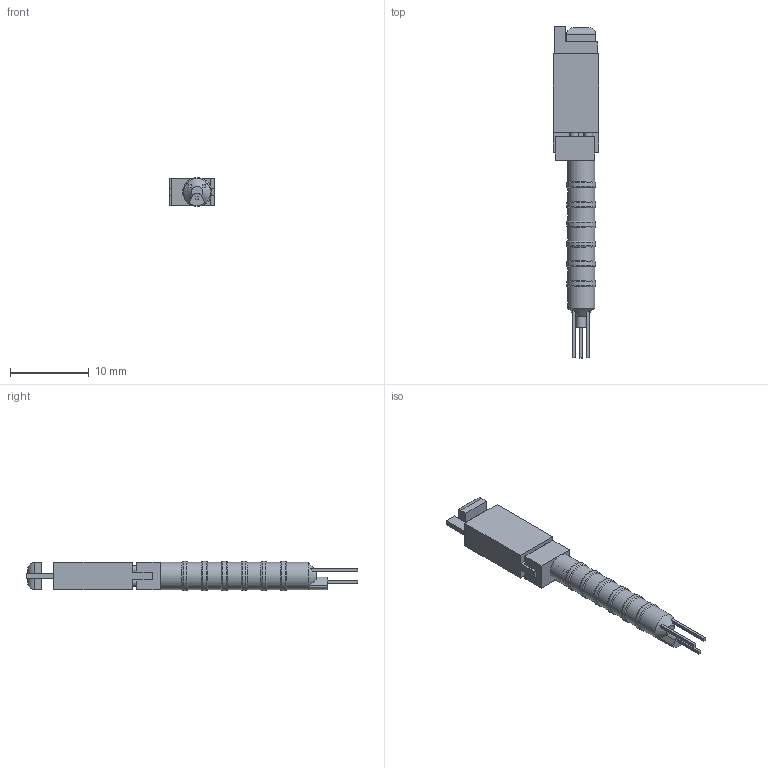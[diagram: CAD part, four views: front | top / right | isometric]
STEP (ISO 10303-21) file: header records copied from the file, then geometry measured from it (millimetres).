
FILE_DESCRIPTION(/* description */ (''),/* implementation_level */ '2;1');
FILE_NAME(/* name */ 'C:/Users/sorto/Downloads/MF_With_Sleeve.step',/* time_stamp */ '2020-10-08T15:54:54-05:00',/* author */ (''),/* organization */ (''),/* preprocessor_version */ 'ST-DEVELOPER v18.1',/* originating_system */ 'Autodesk Translation Framework v9.3.0.1241',/* authorisation */ '');
FILE_SCHEMA (('AUTOMOTIVE_DESIGN { 1 0 10303 214 3 1 1 }'));
Length unit declared in the file: inch
Products named in the file (5): Test ASY; MEGAFINN_Sleeve; Pin Socket; TC- UF06SL Plastic Socket REV 4; MF_sensor
Assembly tree (6 placements, depth 3):
  Test ASY
    MEGAFINN_Sleeve
      Pin Socket  x3
      TC- UF06SL Plastic Socket REV 4
    MF_sensor
Bounding box: 5.8 x 42.05 x 3.68 mm (x, y, z)
Volume: 478.5 mm3; surface area: 1185.3 mm2
Topology: 10 solids, 10 shells, 191 faces, 444 edges, 289 vertices
Faces by surface type: plane 109, cylinder 69, torus 12, cone 1
Full cylindrical faces by diameter (mm): 0.635 x3, 0.686 x3, 0.864 x9, 0.964 x3, 3.45 x7, 3.678 x6
Entity records: 4975 total; most frequent: CARTESIAN_POINT 948, DIRECTION 843, ORIENTED_EDGE 768, EDGE_CURVE 384, AXIS2_PLACEMENT_3D 306, VERTEX_POINT 249, LINE 231, VECTOR 231
